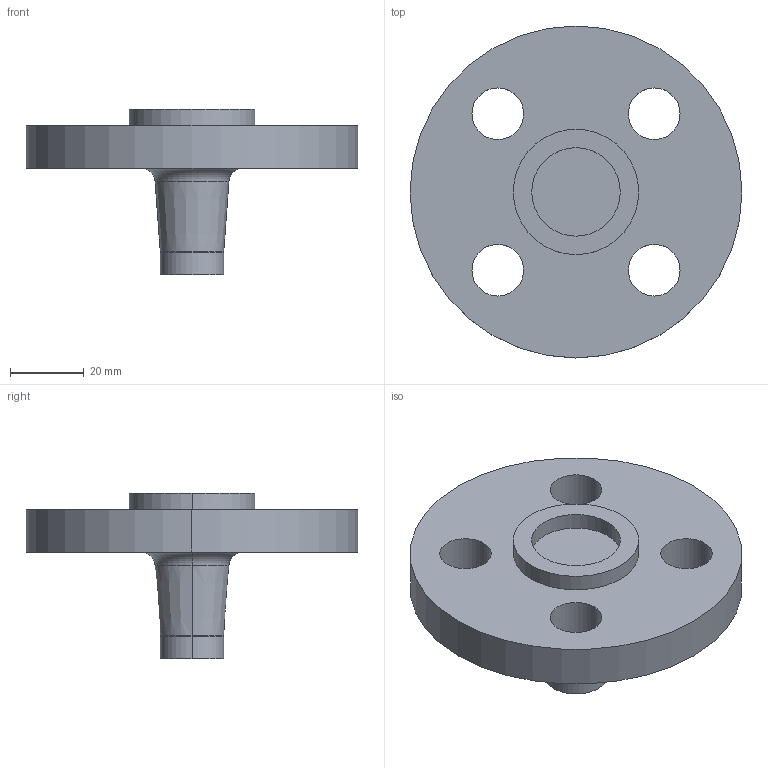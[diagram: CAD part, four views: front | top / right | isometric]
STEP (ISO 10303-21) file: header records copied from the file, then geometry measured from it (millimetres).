
FILE_DESCRIPTION (( 'STEP AP214' ), '1' );
FILE_NAME ('PN40 DN10 Type 21(ii) - Type C Face.STEP', '2018-12-29T05:05:43', ( '' ), ( '' ), 'SwSTEP 2.0', 'SolidWorks 2019', '' );
FILE_SCHEMA (( 'AUTOMOTIVE_DESIGN' ));
Length unit declared in the file: millimetre
Products named in the file (1): PN40 DN10 Type 21(ii) - Type C Face
Bounding box: 90 x 90 x 45 mm (x, y, z)
Volume: 76174.7 mm3; surface area: 19091.6 mm2
Topology: 1 solids, 1 shells, 27 faces, 60 edges, 38 vertices
Faces by surface type: cylinder 16, plane 5, torus 4, cone 2
Entity records: 818 total; most frequent: DIRECTION 158, CARTESIAN_POINT 126, ORIENTED_EDGE 120, AXIS2_PLACEMENT_3D 70, EDGE_CURVE 60, CIRCLE 42, EDGE_LOOP 38, VERTEX_POINT 38
